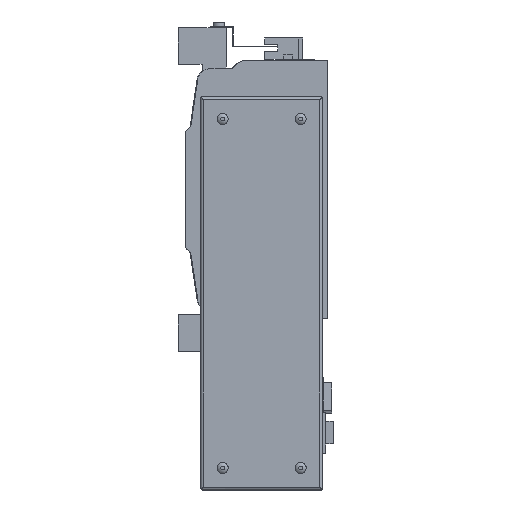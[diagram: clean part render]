
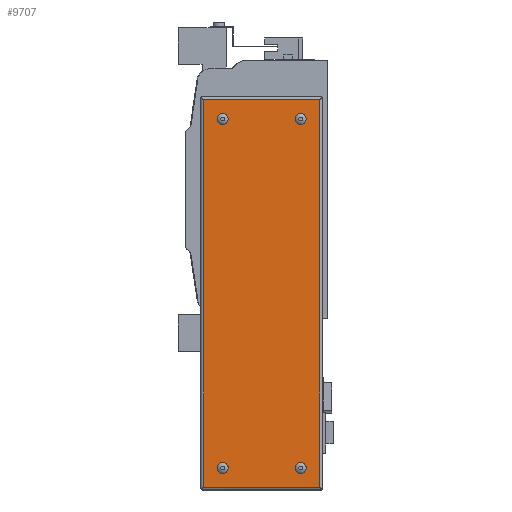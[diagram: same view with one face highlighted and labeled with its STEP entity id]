
A CAD part, left-side view. The second image highlights one B-rep face of the part: STEP entity #9707.
In plain terms, the highlighted planar face has unit normal (-1, 0, 0).
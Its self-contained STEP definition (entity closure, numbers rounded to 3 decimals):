
#279=PLANE('',#10450);
#991=LINE('',#14931,#2081);
#992=LINE('',#14934,#2082);
#993=LINE('',#14936,#2083);
#994=LINE('',#14938,#2084);
#2081=VECTOR('',#12106,1000.);
#2082=VECTOR('',#12107,1000.);
#2083=VECTOR('',#12108,1000.);
#2084=VECTOR('',#12109,1000.);
#3842=ORIENTED_EDGE('',*,*,#6009,.F.);
#3843=ORIENTED_EDGE('',*,*,#6010,.F.);
#3844=ORIENTED_EDGE('',*,*,#6011,.F.);
#3845=ORIENTED_EDGE('',*,*,#6012,.F.);
#3846=ORIENTED_EDGE('',*,*,#6013,.F.);
#3847=ORIENTED_EDGE('',*,*,#6014,.F.);
#3848=ORIENTED_EDGE('',*,*,#6015,.T.);
#3849=ORIENTED_EDGE('',*,*,#6016,.T.);
#6009=EDGE_CURVE('',#7199,#7199,#7835,.F.);
#6010=EDGE_CURVE('',#7200,#7200,#7836,.F.);
#6011=EDGE_CURVE('',#7201,#7201,#7837,.F.);
#6012=EDGE_CURVE('',#7202,#7202,#7838,.F.);
#6013=EDGE_CURVE('',#7203,#7204,#991,.T.);
#6014=EDGE_CURVE('',#7205,#7203,#992,.T.);
#6015=EDGE_CURVE('',#7205,#7206,#993,.T.);
#6016=EDGE_CURVE('',#7206,#7204,#994,.T.);
#7199=VERTEX_POINT('',#14924);
#7200=VERTEX_POINT('',#14926);
#7201=VERTEX_POINT('',#14928);
#7202=VERTEX_POINT('',#14930);
#7203=VERTEX_POINT('',#14932);
#7204=VERTEX_POINT('',#14933);
#7205=VERTEX_POINT('',#14935);
#7206=VERTEX_POINT('',#14937);
#7835=CIRCLE('',#10451,3.7);
#7836=CIRCLE('',#10452,3.7);
#7837=CIRCLE('',#10453,3.7);
#7838=CIRCLE('',#10454,3.7);
#8265=EDGE_LOOP('',(#3842));
#8266=EDGE_LOOP('',(#3843));
#8267=EDGE_LOOP('',(#3844));
#8268=EDGE_LOOP('',(#3845));
#8269=EDGE_LOOP('',(#3846,#3847,#3848,#3849));
#8958=FACE_BOUND('',#8265,.T.);
#8959=FACE_BOUND('',#8266,.T.);
#8960=FACE_BOUND('',#8267,.T.);
#8961=FACE_BOUND('',#8268,.T.);
#8962=FACE_BOUND('',#8269,.T.);
#9707=ADVANCED_FACE('',(#8958,#8959,#8960,#8961,#8962),#279,.F.);
#10450=AXIS2_PLACEMENT_3D('',#14922,#12096,#12097);
#10451=AXIS2_PLACEMENT_3D('',#14923,#12098,#12099);
#10452=AXIS2_PLACEMENT_3D('',#14925,#12100,#12101);
#10453=AXIS2_PLACEMENT_3D('',#14927,#12102,#12103);
#10454=AXIS2_PLACEMENT_3D('',#14929,#12104,#12105);
#12096=DIRECTION('',(1.,0.,0.));
#12097=DIRECTION('',(0.,0.,-1.));
#12098=DIRECTION('',(1.,0.,0.));
#12099=DIRECTION('',(0.,0.,-1.));
#12100=DIRECTION('',(1.,0.,0.));
#12101=DIRECTION('',(0.,0.,-1.));
#12102=DIRECTION('',(1.,0.,0.));
#12103=DIRECTION('',(0.,0.,-1.));
#12104=DIRECTION('',(1.,0.,0.));
#12105=DIRECTION('',(0.,0.,-1.));
#12106=DIRECTION('',(0.,0.,-1.));
#12107=DIRECTION('',(0.,-1.,0.));
#12108=DIRECTION('',(0.,0.,-1.));
#12109=DIRECTION('',(0.,-1.,0.));
#14922=CARTESIAN_POINT('',(-66.,0.,0.));
#14923=CARTESIAN_POINT('',(-66.,71.5,-189.));
#14924=CARTESIAN_POINT('',(-66.,71.5,-192.7));
#14925=CARTESIAN_POINT('',(-66.,18.5,48.));
#14926=CARTESIAN_POINT('',(-66.,18.5,44.3));
#14927=CARTESIAN_POINT('',(-66.,18.5,-189.));
#14928=CARTESIAN_POINT('',(-66.,18.5,-192.7));
#14929=CARTESIAN_POINT('',(-66.,71.5,48.));
#14930=CARTESIAN_POINT('',(-66.,71.5,44.3));
#14931=CARTESIAN_POINT('',(-66.,5.5,267.));
#14932=CARTESIAN_POINT('',(-66.,5.5,61.));
#14933=CARTESIAN_POINT('',(-66.,5.5,-202.));
#14934=CARTESIAN_POINT('',(-66.,267.,61.));
#14935=CARTESIAN_POINT('',(-66.,84.5,61.));
#14936=CARTESIAN_POINT('',(-66.,84.5,267.));
#14937=CARTESIAN_POINT('',(-66.,84.5,-202.));
#14938=CARTESIAN_POINT('',(-66.,267.,-202.));
